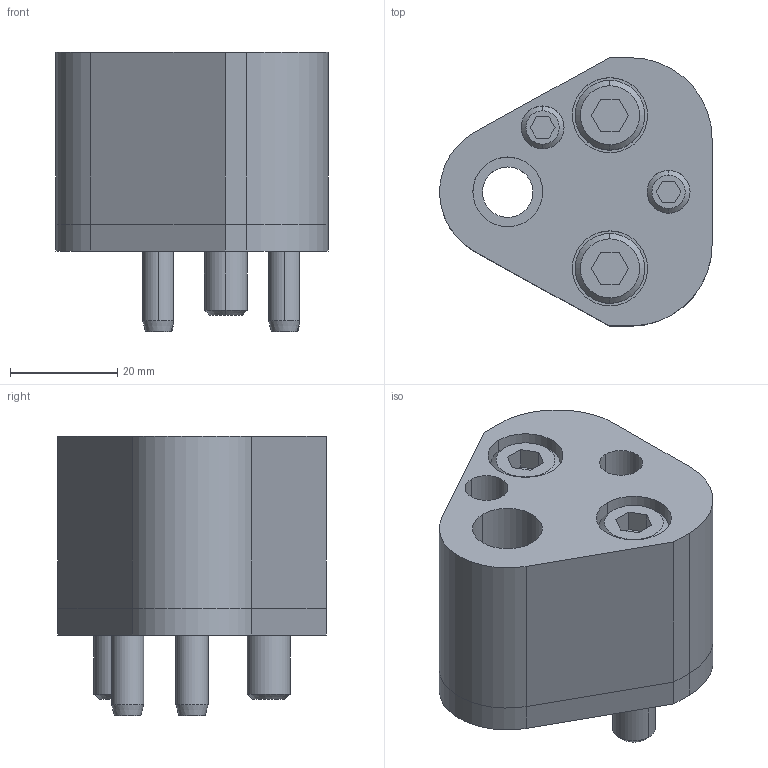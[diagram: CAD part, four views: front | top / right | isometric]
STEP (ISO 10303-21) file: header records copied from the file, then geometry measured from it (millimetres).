
FILE_DESCRIPTION(/* description */ (''),/* implementation_level */ '2;1');
FILE_NAME(/* name */ '3d_crn-ad13_03616_r00.stp',/* time_stamp */ '2011-01-10T14:16:24+09:00',/* author */ ('MISUMI'),/* organization */ (''),/* preprocessor_version */ 'ST-DEVELOPER v11',/* originating_system */ 'UGS - NX 5.0',/* authorisation */ '');
FILE_SCHEMA (('CONFIG_CONTROL_DESIGN'));
Length unit declared in the file: millimetre
Products named in the file (1): 3d_crn-ad13_03616_r00
Bounding box: 50.76 x 50 x 52 mm (x, y, z)
Volume: 62617.4 mm3; surface area: 23072.9 mm2
Topology: 8 solids, 8 shells, 155 faces, 348 edges, 224 vertices
Faces by surface type: plane 67, cylinder 62, cone 26
Entity records: 4494 total; most frequent: DIRECTION 804, CARTESIAN_POINT 782, ORIENTED_EDGE 696, EDGE_CURVE 348, AXIS2_PLACEMENT_3D 306, VERTEX_POINT 224, LINE 192, VECTOR 192
